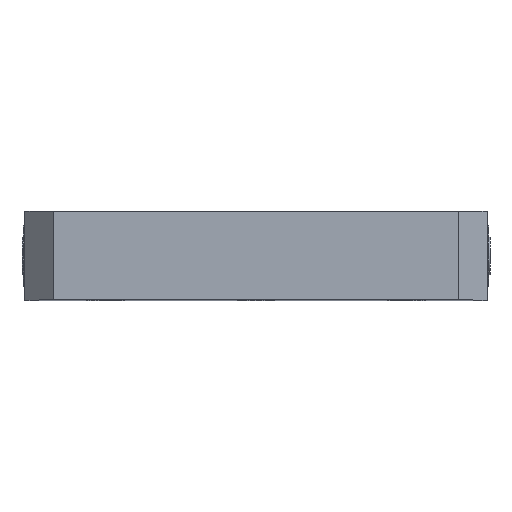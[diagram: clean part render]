
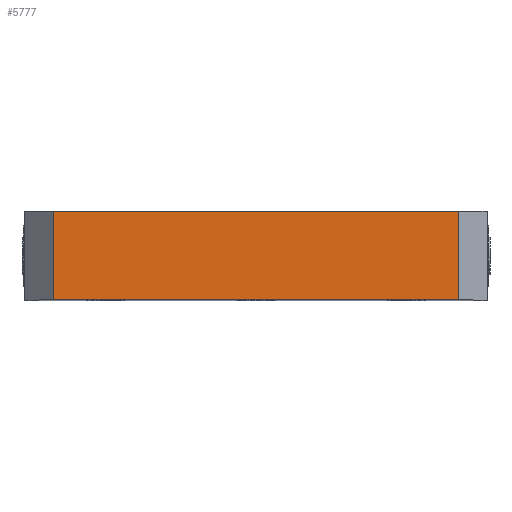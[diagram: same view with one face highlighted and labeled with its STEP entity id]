
A CAD part, top view. The second image highlights one B-rep face of the part: STEP entity #5777.
In plain terms, the highlighted planar face has unit normal (0, 0, 1).
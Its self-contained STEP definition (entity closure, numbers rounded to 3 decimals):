
#422 = EDGE_CURVE ( 'NONE', #930, #3988, #1101, .T. ) ;
#675 = CARTESIAN_POINT ( 'NONE',  ( 68.475, 30., 88. ) ) ;
#676 = LINE ( 'NONE', #5857, #5998 ) ;
#700 = DIRECTION ( 'NONE',  ( 0., 1., 0. ) ) ;
#828 = DIRECTION ( 'NONE',  ( -1., 0., 0. ) ) ;
#930 = VERTEX_POINT ( 'NONE', #5445 ) ;
#1033 = EDGE_LOOP ( 'NONE', ( #3630, #2344, #6009, #5295 ) ) ;
#1101 = LINE ( 'NONE', #2960, #3663 ) ;
#1276 = DIRECTION ( 'NONE',  ( 0., -1., 0. ) ) ;
#1613 = LINE ( 'NONE', #3351, #5805 ) ;
#1830 = DIRECTION ( 'NONE',  ( 0., 0., -1. ) ) ;
#2344 = ORIENTED_EDGE ( 'NONE', *, *, #6258, .T. ) ;
#2364 = PLANE ( 'NONE',  #2832 ) ;
#2832 = AXIS2_PLACEMENT_3D ( 'NONE', #3422, #1830, #828 ) ;
#2854 = LINE ( 'NONE', #675, #6481 ) ;
#2960 = CARTESIAN_POINT ( 'NONE',  ( -78., 0., 88. ) ) ;
#3170 = CARTESIAN_POINT ( 'NONE',  ( 68.475, 0., 88. ) ) ;
#3351 = CARTESIAN_POINT ( 'NONE',  ( -68.475, 30., 88. ) ) ;
#3422 = CARTESIAN_POINT ( 'NONE',  ( -78., 30., 88. ) ) ;
#3519 = CARTESIAN_POINT ( 'NONE',  ( 68.475, 30., 88. ) ) ;
#3605 = FACE_OUTER_BOUND ( 'NONE', #1033, .T. ) ;
#3630 = ORIENTED_EDGE ( 'NONE', *, *, #4339, .F. ) ;
#3663 = VECTOR ( 'NONE', #5089, 1000. ) ;
#3988 = VERTEX_POINT ( 'NONE', #3170 ) ;
#4339 = EDGE_CURVE ( 'NONE', #5014, #6340, #676, .T. ) ;
#4386 = EDGE_CURVE ( 'NONE', #3988, #6340, #2854, .T. ) ;
#4789 = CARTESIAN_POINT ( 'NONE',  ( -68.475, 30., 88. ) ) ;
#5014 = VERTEX_POINT ( 'NONE', #4789 ) ;
#5089 = DIRECTION ( 'NONE',  ( 1., 0., 0. ) ) ;
#5295 = ORIENTED_EDGE ( 'NONE', *, *, #4386, .T. ) ;
#5445 = CARTESIAN_POINT ( 'NONE',  ( -68.475, 0., 88. ) ) ;
#5777 = ADVANCED_FACE ( 'NONE', ( #3605 ), #2364, .F. ) ;
#5805 = VECTOR ( 'NONE', #1276, 1000. ) ;
#5857 = CARTESIAN_POINT ( 'NONE',  ( -78., 30., 88. ) ) ;
#5998 = VECTOR ( 'NONE', #6325, 1000. ) ;
#6009 = ORIENTED_EDGE ( 'NONE', *, *, #422, .T. ) ;
#6258 = EDGE_CURVE ( 'NONE', #5014, #930, #1613, .T. ) ;
#6325 = DIRECTION ( 'NONE',  ( 1., 0., 0. ) ) ;
#6340 = VERTEX_POINT ( 'NONE', #3519 ) ;
#6481 = VECTOR ( 'NONE', #700, 1000. ) ;
